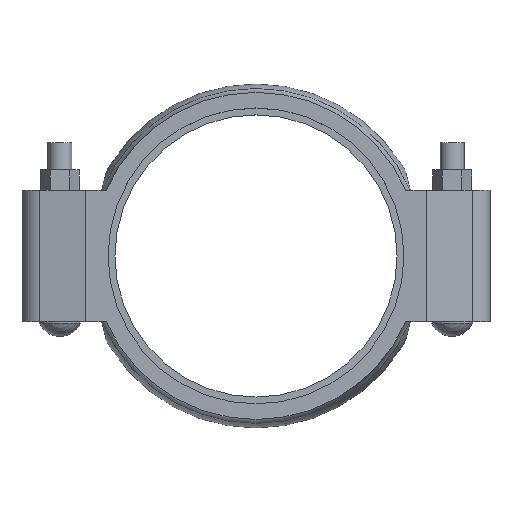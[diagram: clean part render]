
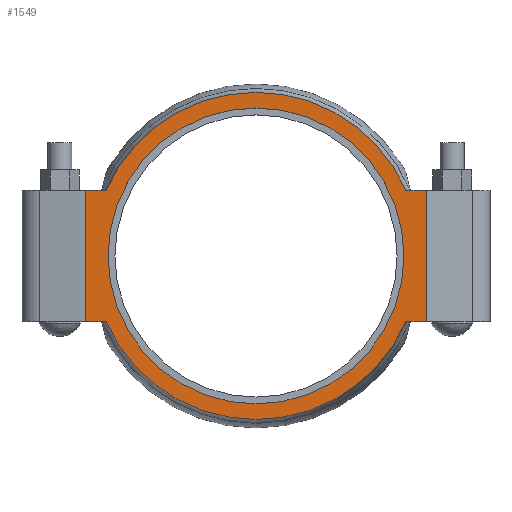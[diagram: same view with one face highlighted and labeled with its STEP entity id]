
A CAD part, top view. The second image highlights one B-rep face of the part: STEP entity #1549.
In plain terms, the highlighted planar face has unit normal (0, 0, 1).
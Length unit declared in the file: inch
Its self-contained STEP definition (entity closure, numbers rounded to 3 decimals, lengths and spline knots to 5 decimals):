
#103=FACE_BOUND('',#301,.T.);
#141=PLANE('',#1697);
#212=FACE_OUTER_BOUND('',#300,.T.);
#300=EDGE_LOOP('',(#1292,#1293,#1294,#1295,#1296,#1297,#1298,#1299));
#301=EDGE_LOOP('',(#1300));
#379=LINE('',#2474,#488);
#386=LINE('',#2556,#495);
#392=LINE('',#2630,#501);
#396=LINE('',#2643,#505);
#406=LINE('',#2706,#515);
#407=LINE('',#2708,#516);
#488=VECTOR('',#1932,0.3937);
#495=VECTOR('',#1961,0.3937);
#501=VECTOR('',#1973,0.3937);
#505=VECTOR('',#1983,0.3937);
#515=VECTOR('',#2007,0.3937);
#516=VECTOR('',#2010,0.3937);
#544=CIRCLE('',#1597,5.375);
#585=CIRCLE('',#1696,5.941);
#586=CIRCLE('',#1698,5.941);
#610=VERTEX_POINT('',#2188);
#681=VERTEX_POINT('',#2471);
#682=VERTEX_POINT('',#2473);
#693=VERTEX_POINT('',#2546);
#694=VERTEX_POINT('',#2555);
#708=VERTEX_POINT('',#2620);
#709=VERTEX_POINT('',#2629);
#714=VERTEX_POINT('',#2641);
#715=VERTEX_POINT('',#2642);
#754=EDGE_CURVE('',#610,#610,#544,.T.);
#848=EDGE_CURVE('',#681,#682,#379,.T.);
#866=EDGE_CURVE('',#693,#694,#386,.T.);
#882=EDGE_CURVE('',#708,#709,#392,.T.);
#888=EDGE_CURVE('',#714,#715,#396,.T.);
#906=EDGE_CURVE('',#694,#714,#406,.T.);
#907=EDGE_CURVE('',#681,#709,#407,.T.);
#920=EDGE_CURVE('',#715,#708,#585,.T.);
#921=EDGE_CURVE('',#682,#693,#586,.T.);
#1292=ORIENTED_EDGE('',*,*,#921,.F.);
#1293=ORIENTED_EDGE('',*,*,#848,.F.);
#1294=ORIENTED_EDGE('',*,*,#907,.T.);
#1295=ORIENTED_EDGE('',*,*,#882,.F.);
#1296=ORIENTED_EDGE('',*,*,#920,.F.);
#1297=ORIENTED_EDGE('',*,*,#888,.F.);
#1298=ORIENTED_EDGE('',*,*,#906,.F.);
#1299=ORIENTED_EDGE('',*,*,#866,.F.);
#1300=ORIENTED_EDGE('',*,*,#754,.T.);
#1549=ADVANCED_FACE('',(#212,#103),#141,.T.);
#1597=AXIS2_PLACEMENT_3D('',#2190,#1767,#1768);
#1696=AXIS2_PLACEMENT_3D('',#2733,#2054,#2055);
#1697=AXIS2_PLACEMENT_3D('',#2734,#2056,#2057);
#1698=AXIS2_PLACEMENT_3D('',#2735,#2058,#2059);
#1767=DIRECTION('center_axis',(0.,0.,-1.));
#1768=DIRECTION('ref_axis',(1.,0.,0.));
#1932=DIRECTION('',(-1.,0.,0.));
#1961=DIRECTION('',(-1.,0.,0.));
#1973=DIRECTION('',(1.,0.,0.));
#1983=DIRECTION('',(1.,0.,0.));
#2007=DIRECTION('',(0.,1.,0.));
#2010=DIRECTION('',(0.,1.,0.));
#2054=DIRECTION('center_axis',(0.,0.,-1.));
#2055=DIRECTION('ref_axis',(-1.,0.,0.));
#2056=DIRECTION('center_axis',(0.,0.,1.));
#2057=DIRECTION('ref_axis',(-1.,0.,0.));
#2058=DIRECTION('center_axis',(0.,0.,-1.));
#2059=DIRECTION('ref_axis',(-1.,0.,0.));
#2188=CARTESIAN_POINT('',(-5.375,0.,1.44));
#2190=CARTESIAN_POINT('Origin',(0.,0.,1.44));
#2471=CARTESIAN_POINT('',(6.185,-2.38,1.44));
#2473=CARTESIAN_POINT('',(5.44344,-2.38,1.44));
#2474=CARTESIAN_POINT('',(-6.185,-2.38,1.44));
#2546=CARTESIAN_POINT('',(-5.44344,-2.38,1.44));
#2555=CARTESIAN_POINT('',(-6.185,-2.38,1.44));
#2556=CARTESIAN_POINT('',(-6.185,-2.38,1.44));
#2620=CARTESIAN_POINT('',(5.44344,2.38,1.44));
#2629=CARTESIAN_POINT('',(6.185,2.38,1.44));
#2630=CARTESIAN_POINT('',(-6.185,2.38,1.44));
#2641=CARTESIAN_POINT('',(-6.185,2.38,1.44));
#2642=CARTESIAN_POINT('',(-5.44344,2.38,1.44));
#2643=CARTESIAN_POINT('',(-6.185,2.38,1.44));
#2706=CARTESIAN_POINT('',(-6.185,0.,1.44));
#2708=CARTESIAN_POINT('',(6.185,0.,1.44));
#2733=CARTESIAN_POINT('Origin',(0.,0.,1.44));
#2734=CARTESIAN_POINT('Origin',(0.,-5.941,1.44));
#2735=CARTESIAN_POINT('Origin',(0.,0.,1.44));
